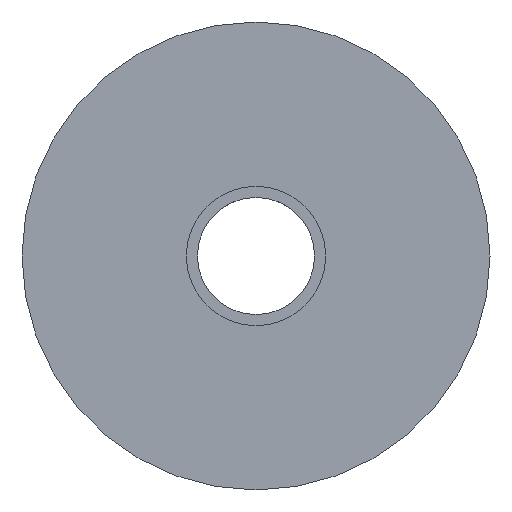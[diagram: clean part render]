
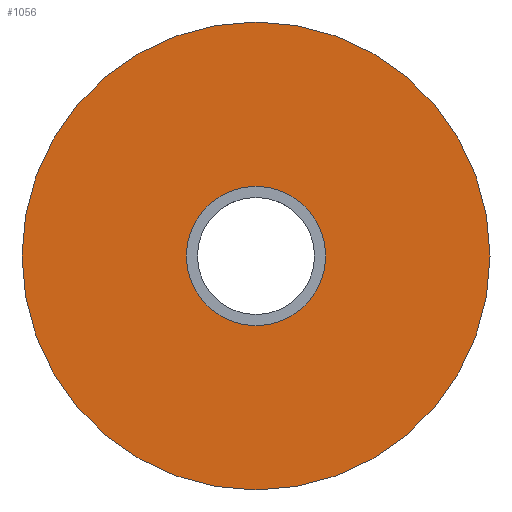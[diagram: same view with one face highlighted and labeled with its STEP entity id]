
A CAD part, front view. The second image highlights one B-rep face of the part: STEP entity #1056.
In plain terms, the highlighted planar face has unit normal (0, -1, 0).
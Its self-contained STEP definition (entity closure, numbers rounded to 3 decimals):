
#3 = EDGE_CURVE ( 'NONE', #92, #69, #422, .T. ) ;
#7 = DIRECTION ( 'NONE',  ( 0., 0., 1. ) ) ;
#69 = VERTEX_POINT ( 'NONE', #1244 ) ;
#92 = VERTEX_POINT ( 'NONE', #513 ) ;
#105 = DIRECTION ( 'NONE',  ( 0., 0., 1. ) ) ;
#149 = DIRECTION ( 'NONE',  ( 0., 1., 0. ) ) ;
#185 = VERTEX_POINT ( 'NONE', #1119 ) ;
#189 = ORIENTED_EDGE ( 'NONE', *, *, #3, .T. ) ;
#201 = EDGE_LOOP ( 'NONE', ( #1382, #1402 ) ) ;
#235 = DIRECTION ( 'NONE',  ( 0., 1., 0. ) ) ;
#236 = EDGE_CURVE ( 'NONE', #577, #185, #522, .T. ) ;
#418 = ORIENTED_EDGE ( 'NONE', *, *, #907, .T. ) ;
#422 = CIRCLE ( 'NONE', #817, 25. ) ;
#467 = FACE_OUTER_BOUND ( 'NONE', #201, .T. ) ;
#513 = CARTESIAN_POINT ( 'NONE',  ( 0., 0., 25. ) ) ;
#522 = CIRCLE ( 'NONE', #651, 84. ) ;
#539 = DIRECTION ( 'NONE',  ( 0., 0., 1. ) ) ;
#547 = DIRECTION ( 'NONE',  ( 0., 1., 0. ) ) ;
#577 = VERTEX_POINT ( 'NONE', #1200 ) ;
#651 = AXIS2_PLACEMENT_3D ( 'NONE', #802, #235, #7 ) ;
#661 = EDGE_CURVE ( 'NONE', #185, #577, #1155, .T. ) ;
#721 = EDGE_LOOP ( 'NONE', ( #418, #189 ) ) ;
#737 = CARTESIAN_POINT ( 'NONE',  ( 0., 0., 0. ) ) ;
#802 = CARTESIAN_POINT ( 'NONE',  ( 0., 0., 0. ) ) ;
#813 = AXIS2_PLACEMENT_3D ( 'NONE', #1141, #547, #539 ) ;
#817 = AXIS2_PLACEMENT_3D ( 'NONE', #1226, #1098, #1219 ) ;
#907 = EDGE_CURVE ( 'NONE', #69, #92, #1038, .T. ) ;
#944 = FACE_BOUND ( 'NONE', #721, .T. ) ;
#984 = DIRECTION ( 'NONE',  ( 0., 0., 1. ) ) ;
#1038 = CIRCLE ( 'NONE', #813, 25. ) ;
#1056 = ADVANCED_FACE ( 'NONE', ( #467, #944 ), #1388, .F. ) ;
#1098 = DIRECTION ( 'NONE',  ( 0., 1., 0. ) ) ;
#1119 = CARTESIAN_POINT ( 'NONE',  ( 0., 0., 84. ) ) ;
#1141 = CARTESIAN_POINT ( 'NONE',  ( 0., 0., 0. ) ) ;
#1155 = CIRCLE ( 'NONE', #1300, 84. ) ;
#1168 = CARTESIAN_POINT ( 'NONE',  ( 0., 0., 0. ) ) ;
#1200 = CARTESIAN_POINT ( 'NONE',  ( 0., 0., -84. ) ) ;
#1216 = AXIS2_PLACEMENT_3D ( 'NONE', #1168, #1400, #105 ) ;
#1219 = DIRECTION ( 'NONE',  ( 0., 0., 1. ) ) ;
#1226 = CARTESIAN_POINT ( 'NONE',  ( 0., 0., 0. ) ) ;
#1244 = CARTESIAN_POINT ( 'NONE',  ( 0., 0., -25. ) ) ;
#1300 = AXIS2_PLACEMENT_3D ( 'NONE', #737, #149, #984 ) ;
#1382 = ORIENTED_EDGE ( 'NONE', *, *, #236, .F. ) ;
#1388 = PLANE ( 'NONE',  #1216 ) ;
#1400 = DIRECTION ( 'NONE',  ( 0., 1., 0. ) ) ;
#1402 = ORIENTED_EDGE ( 'NONE', *, *, #661, .F. ) ;
